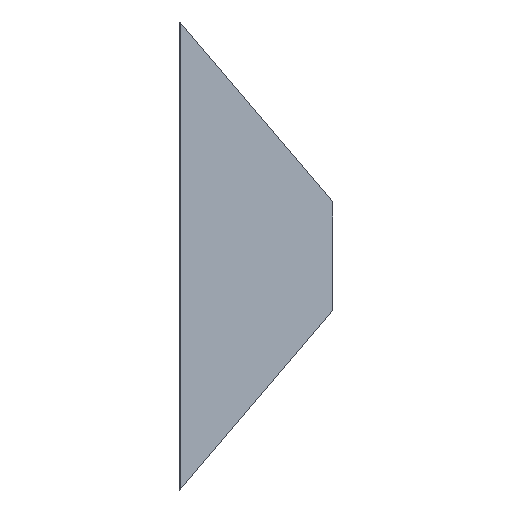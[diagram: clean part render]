
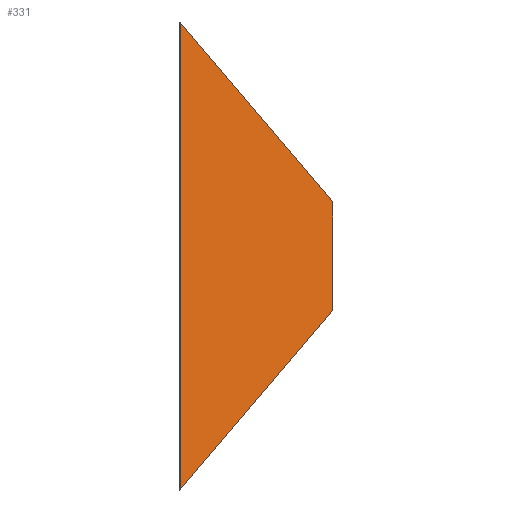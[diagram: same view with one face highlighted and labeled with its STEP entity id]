
A CAD part, top view. The second image highlights one B-rep face of the part: STEP entity #331.
In plain terms, the highlighted planar face has unit normal (0.58, 0, 0.815).
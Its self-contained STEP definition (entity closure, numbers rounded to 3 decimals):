
#22 = VERTEX_POINT('',#23);
#23 = CARTESIAN_POINT('',(-604.636,400.,1593.48));
#32 = PLANE('',#33);
#33 = AXIS2_PLACEMENT_3D('',#34,#35,#36);
#34 = CARTESIAN_POINT('',(-604.636,400.,1593.48));
#35 = DIRECTION('',(-0.815,0.,0.58));
#36 = DIRECTION('',(0.,-1.,0.));
#44 = PLANE('',#45);
#45 = AXIS2_PLACEMENT_3D('',#46,#47,#48);
#46 = CARTESIAN_POINT('',(-1729.636,1725.,
    2393.48));
#47 = DIRECTION('',(-0.564,-0.721,0.401));
#48 = DIRECTION('',(0.588,-0.692,-0.418));
#85 = VERTEX_POINT('',#86);
#86 = CARTESIAN_POINT('',(-604.636,-400.,1593.48));
#100 = PLANE('',#101);
#101 = AXIS2_PLACEMENT_3D('',#102,#103,#104);
#102 = CARTESIAN_POINT('',(-604.636,-400.,1593.48));
#103 = DIRECTION('',(-0.564,0.721,0.401));
#104 = DIRECTION('',(-0.588,-0.692,0.418));
#112 = EDGE_CURVE('',#22,#85,#113,.T.);
#113 = SURFACE_CURVE('',#114,(#118,#125),.PCURVE_S1.);
#114 = LINE('',#115,#116);
#115 = CARTESIAN_POINT('',(-604.636,400.,1593.48));
#116 = VECTOR('',#117,1.);
#117 = DIRECTION('',(0.,-1.,0.));
#118 = PCURVE('',#32,#119);
#119 = DEFINITIONAL_REPRESENTATION('',(#120),#124);
#120 = LINE('',#121,#122);
#121 = CARTESIAN_POINT('',(0.,0.));
#122 = VECTOR('',#123,1.);
#123 = DIRECTION('',(1.,0.));
#124 = ( GEOMETRIC_REPRESENTATION_CONTEXT(2) 
PARAMETRIC_REPRESENTATION_CONTEXT() REPRESENTATION_CONTEXT('2D SPACE',''
  ) );
#125 = PCURVE('',#126,#131);
#126 = PLANE('',#127);
#127 = AXIS2_PLACEMENT_3D('',#128,#129,#130);
#128 = CARTESIAN_POINT('',(-1351.691,0.,
    2124.719));
#129 = DIRECTION('',(-0.58,-0.,-0.815));
#130 = DIRECTION('',(-0.815,0.,0.58));
#131 = DEFINITIONAL_REPRESENTATION('',(#132),#136);
#132 = LINE('',#133,#134);
#133 = CARTESIAN_POINT('',(-916.682,400.));
#134 = VECTOR('',#135,1.);
#135 = DIRECTION('',(0.,-1.));
#136 = ( GEOMETRIC_REPRESENTATION_CONTEXT(2) 
PARAMETRIC_REPRESENTATION_CONTEXT() REPRESENTATION_CONTEXT('2D SPACE',''
  ) );
#166 = VERTEX_POINT('',#167);
#167 = CARTESIAN_POINT('',(-1729.636,-1725.,
    2393.48));
#181 = PLANE('',#182);
#182 = AXIS2_PLACEMENT_3D('',#183,#184,#185);
#183 = CARTESIAN_POINT('',(-1729.636,-1725.,
    2393.48));
#184 = DIRECTION('',(0.815,0.,-0.58));
#185 = DIRECTION('',(0.,1.,0.));
#193 = EDGE_CURVE('',#85,#166,#194,.T.);
#194 = SURFACE_CURVE('',#195,(#199,#206),.PCURVE_S1.);
#195 = LINE('',#196,#197);
#196 = CARTESIAN_POINT('',(-604.636,-400.,1593.48));
#197 = VECTOR('',#198,1.);
#198 = DIRECTION('',(-0.588,-0.692,0.418));
#199 = PCURVE('',#100,#200);
#200 = DEFINITIONAL_REPRESENTATION('',(#201),#205);
#201 = LINE('',#202,#203);
#202 = CARTESIAN_POINT('',(0.,0.));
#203 = VECTOR('',#204,1.);
#204 = DIRECTION('',(1.,0.));
#205 = ( GEOMETRIC_REPRESENTATION_CONTEXT(2) 
PARAMETRIC_REPRESENTATION_CONTEXT() REPRESENTATION_CONTEXT('2D SPACE',''
  ) );
#206 = PCURVE('',#126,#207);
#207 = DEFINITIONAL_REPRESENTATION('',(#208),#212);
#208 = LINE('',#209,#210);
#209 = CARTESIAN_POINT('',(-916.682,-400.));
#210 = VECTOR('',#211,1.);
#211 = DIRECTION('',(0.721,-0.692));
#212 = ( GEOMETRIC_REPRESENTATION_CONTEXT(2) 
PARAMETRIC_REPRESENTATION_CONTEXT() REPRESENTATION_CONTEXT('2D SPACE',''
  ) );
#242 = VERTEX_POINT('',#243);
#243 = CARTESIAN_POINT('',(-1729.636,1725.,
    2393.48));
#264 = EDGE_CURVE('',#166,#242,#265,.T.);
#265 = SURFACE_CURVE('',#266,(#270,#277),.PCURVE_S1.);
#266 = LINE('',#267,#268);
#267 = CARTESIAN_POINT('',(-1729.636,-1725.,
    2393.48));
#268 = VECTOR('',#269,1.);
#269 = DIRECTION('',(0.,1.,0.));
#270 = PCURVE('',#181,#271);
#271 = DEFINITIONAL_REPRESENTATION('',(#272),#276);
#272 = LINE('',#273,#274);
#273 = CARTESIAN_POINT('',(0.,0.));
#274 = VECTOR('',#275,1.);
#275 = DIRECTION('',(1.,0.));
#276 = ( GEOMETRIC_REPRESENTATION_CONTEXT(2) 
PARAMETRIC_REPRESENTATION_CONTEXT() REPRESENTATION_CONTEXT('2D SPACE',''
  ) );
#277 = PCURVE('',#126,#278);
#278 = DEFINITIONAL_REPRESENTATION('',(#279),#283);
#279 = LINE('',#280,#281);
#280 = CARTESIAN_POINT('',(463.762,-1725.));
#281 = VECTOR('',#282,1.);
#282 = DIRECTION('',(0.,1.));
#283 = ( GEOMETRIC_REPRESENTATION_CONTEXT(2) 
PARAMETRIC_REPRESENTATION_CONTEXT() REPRESENTATION_CONTEXT('2D SPACE',''
  ) );
#311 = EDGE_CURVE('',#242,#22,#312,.T.);
#312 = SURFACE_CURVE('',#313,(#317,#324),.PCURVE_S1.);
#313 = LINE('',#314,#315);
#314 = CARTESIAN_POINT('',(-1729.636,1725.,
    2393.48));
#315 = VECTOR('',#316,1.);
#316 = DIRECTION('',(0.588,-0.692,-0.418));
#317 = PCURVE('',#44,#318);
#318 = DEFINITIONAL_REPRESENTATION('',(#319),#323);
#319 = LINE('',#320,#321);
#320 = CARTESIAN_POINT('',(0.,0.));
#321 = VECTOR('',#322,1.);
#322 = DIRECTION('',(1.,0.));
#323 = ( GEOMETRIC_REPRESENTATION_CONTEXT(2) 
PARAMETRIC_REPRESENTATION_CONTEXT() REPRESENTATION_CONTEXT('2D SPACE',''
  ) );
#324 = PCURVE('',#126,#325);
#325 = DEFINITIONAL_REPRESENTATION('',(#326),#330);
#326 = LINE('',#327,#328);
#327 = CARTESIAN_POINT('',(463.762,1725.));
#328 = VECTOR('',#329,1.);
#329 = DIRECTION('',(-0.721,-0.692));
#330 = ( GEOMETRIC_REPRESENTATION_CONTEXT(2) 
PARAMETRIC_REPRESENTATION_CONTEXT() REPRESENTATION_CONTEXT('2D SPACE',''
  ) );
#331 = ADVANCED_FACE('',(#332),#126,.F.);
#332 = FACE_BOUND('',#333,.F.);
#333 = EDGE_LOOP('',(#334,#335,#336,#337));
#334 = ORIENTED_EDGE('',*,*,#112,.T.);
#335 = ORIENTED_EDGE('',*,*,#193,.T.);
#336 = ORIENTED_EDGE('',*,*,#264,.T.);
#337 = ORIENTED_EDGE('',*,*,#311,.T.);
